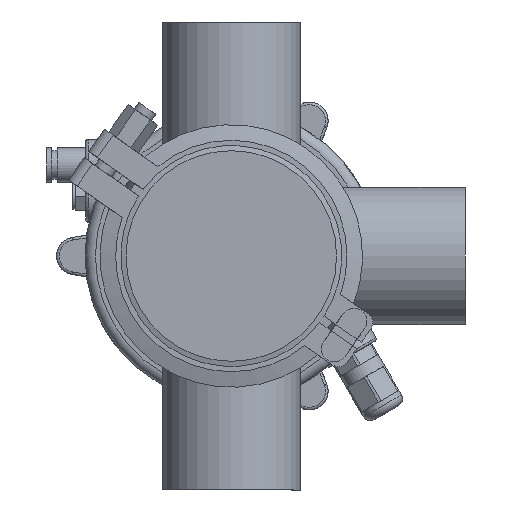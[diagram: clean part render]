
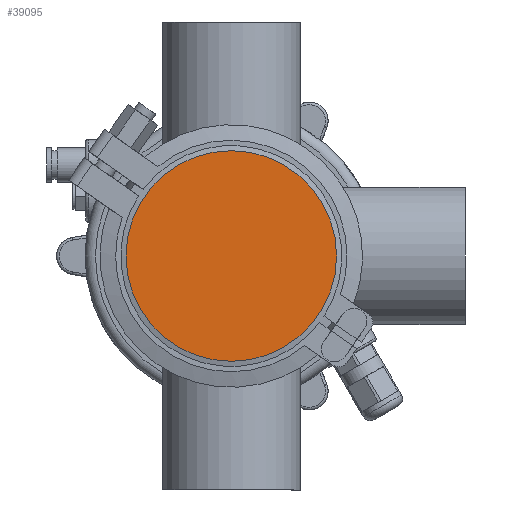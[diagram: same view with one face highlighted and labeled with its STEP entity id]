
A CAD part, front view. The second image highlights one B-rep face of the part: STEP entity #39095.
In plain terms, the highlighted planar face has unit normal (0, -1, 0).
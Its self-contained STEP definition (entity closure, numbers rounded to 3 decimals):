
#5608 = CARTESIAN_POINT ( 'NONE',  ( -40.5, 0., 0. ) ) ;
#8123 = FACE_OUTER_BOUND ( 'NONE', #15087, .T. ) ;
#8668 = CIRCLE ( 'NONE', #46220, 40.5 ) ;
#9917 = DIRECTION ( 'NONE',  ( 0., -1., 0. ) ) ;
#14947 = CARTESIAN_POINT ( 'NONE',  ( 0., 0., 0. ) ) ;
#15087 = EDGE_LOOP ( 'NONE', ( #30507 ) ) ;
#26948 = PLANE ( 'NONE',  #43050 ) ;
#30507 = ORIENTED_EDGE ( 'NONE', *, *, #40720, .F. ) ;
#34445 = DIRECTION ( 'NONE',  ( 0., 0., 1. ) ) ;
#37207 = CARTESIAN_POINT ( 'NONE',  ( 0., 0., 40.5 ) ) ;
#37735 = DIRECTION ( 'NONE',  ( 0., 0., -1. ) ) ;
#39095 = ADVANCED_FACE ( 'NONE', ( #8123 ), #26948, .T. ) ;
#40720 = EDGE_CURVE ( 'NONE', #60589, #60589, #8668, .T. ) ;
#43050 = AXIS2_PLACEMENT_3D ( 'NONE', #5608, #9917, #37735 ) ;
#43778 = DIRECTION ( 'NONE',  ( 0., 1., 0. ) ) ;
#46220 = AXIS2_PLACEMENT_3D ( 'NONE', #14947, #43778, #34445 ) ;
#60589 = VERTEX_POINT ( 'NONE', #37207 ) ;
